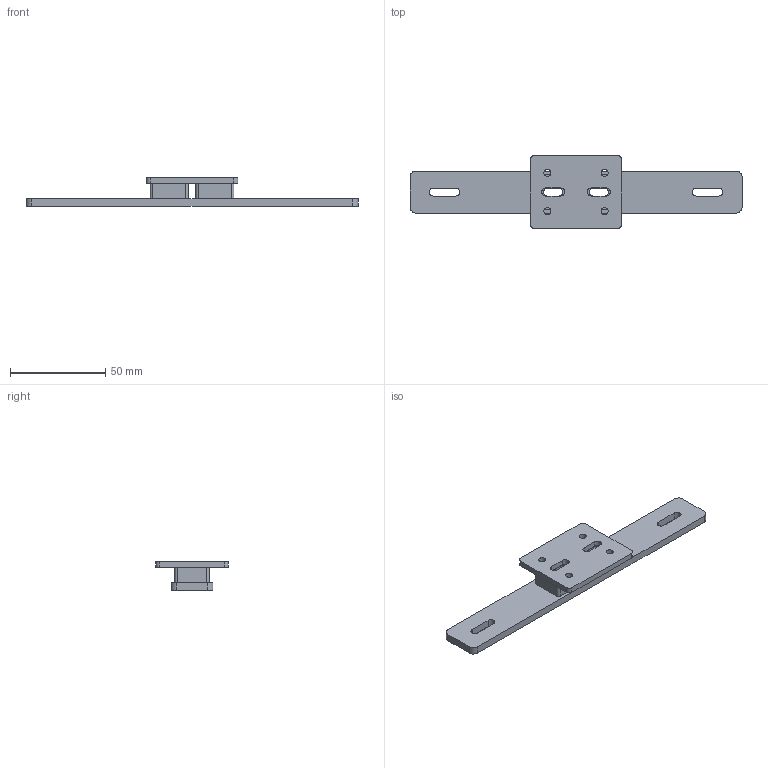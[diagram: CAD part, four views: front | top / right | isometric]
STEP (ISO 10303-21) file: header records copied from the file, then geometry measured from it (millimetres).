
FILE_DESCRIPTION(('Open CASCADE Model'),'2;1');
FILE_NAME('Open CASCADE Shape Model','2026-09-20T04:25:34',('Author'),( 'Open CASCADE'),'Open CASCADE STEP processor 7.9','Open CASCADE 7.9' ,'Unknown');
FILE_SCHEMA(('AUTOMOTIVE_DESIGN { 1 0 10303 214 1 1 1 1 }'));
Length unit declared in the file: millimetre
Products named in the file (5): 529ce794-b4ab-11f1-bca5-a68942af9f2b; rail; spacer_-12; spacer_12; sled
Assembly tree (4 placements, depth 2):
  529ce794-b4ab-11f1-bca5-a68942af9f2b
    rail
    spacer_-12
    spacer_12
    sled
Bounding box: 174 x 38 x 15 mm (x, y, z)
Volume: 24455.1 mm3; surface area: 16318.7 mm2
Topology: 4 solids, 4 shells, 76 faces, 204 edges, 136 vertices
Faces by surface type: plane 40, cylinder 36
Full cylindrical faces by diameter (mm): 3.6 x4
Entity records: 5304 total; most frequent: CARTESIAN_POINT 1133, DIRECTION 782, LINE 452, VECTOR 452, ORIENTED_EDGE 408, PCURVE 408, DEFINITIONAL_REPRESENTATION 408, EDGE_CURVE 204
